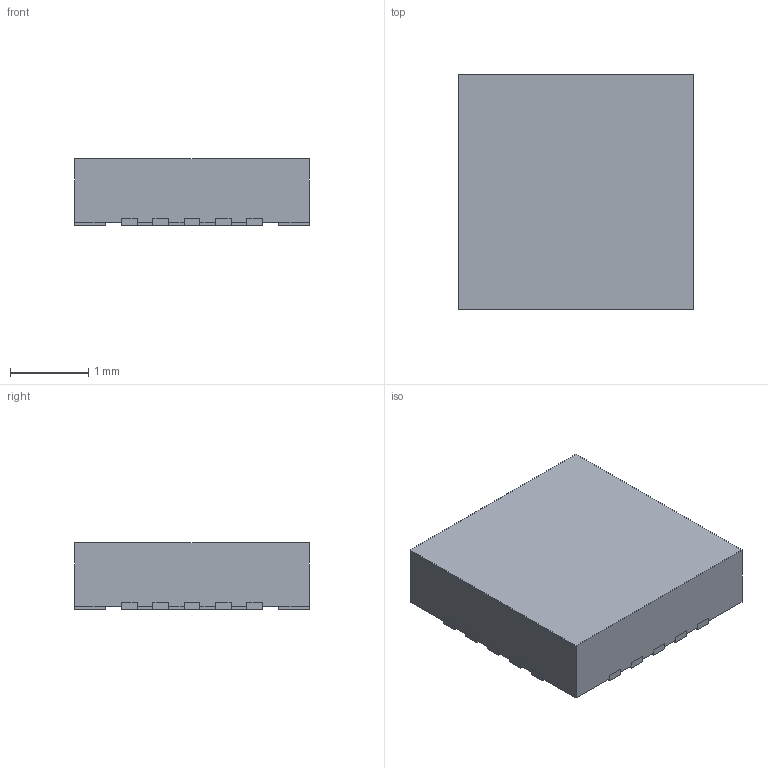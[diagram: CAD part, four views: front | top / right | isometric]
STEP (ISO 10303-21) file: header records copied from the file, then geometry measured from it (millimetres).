
FILE_DESCRIPTION(('Open CASCADE Model'),'2;1');
FILE_NAME('TMC6300-LA-T_QFN20_3x3','2026-09-04T00:01:43',('Author'),( 'Open CASCADE'),'Open CASCADE STEP processor 7.9','build123d', 'Unknown');
FILE_SCHEMA(('AUTOMOTIVE_DESIGN { 1 0 10303 214 1 1 1 1 }'));
Length unit declared in the file: millimetre
Products named in the file (4): TMC6300-LA-T_QFN20_3x3; body; leads_20x; thermal_pad
Assembly tree (3 placements, depth 2):
  TMC6300-LA-T_QFN20_3x3
    body
    leads_20x
    thermal_pad
Bounding box: 3 x 3 x 0.85 mm (x, y, z)
Volume: 7.5 mm3; surface area: 40.5 mm2
Topology: 22 solids, 22 shells, 217 faces, 516 edges, 344 vertices
Faces by surface type: plane 217
Entity records: 6152 total; most frequent: CARTESIAN_POINT 1081, ORIENTED_EDGE 1032, DIRECTION 958, EDGE_CURVE 516, LINE 516, VECTOR 516, VERTEX_POINT 344, AXIS2_PLACEMENT_3D 221
